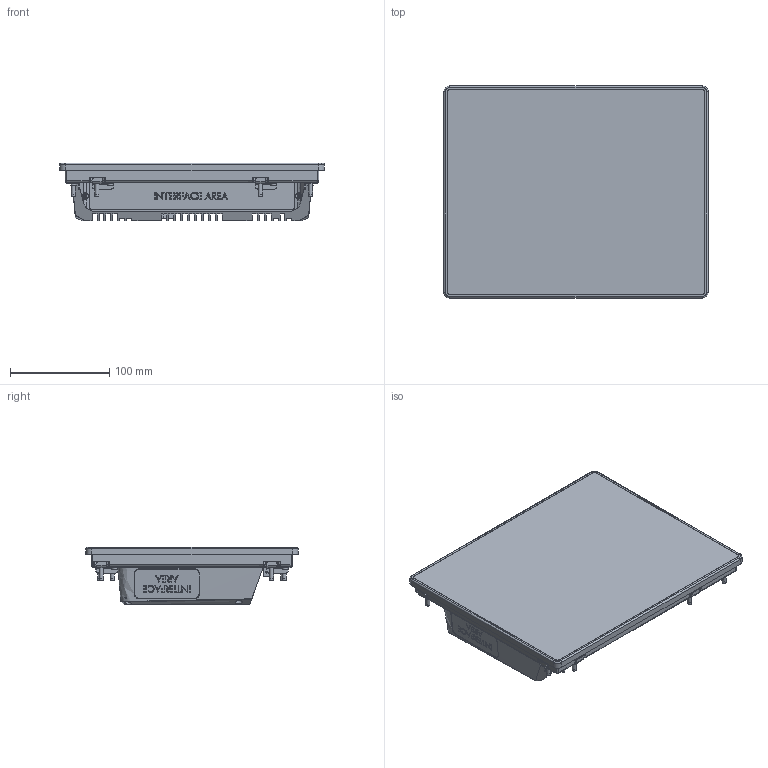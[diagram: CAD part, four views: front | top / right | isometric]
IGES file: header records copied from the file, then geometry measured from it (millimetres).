
Global section: file name: 153-13536_PV-AW10IoT10.4TX; native system: Autodesk Inventor 2022; preprocessor: unknown; author: Sandra.Stahl; date: 20220511.121418; units: millimetre
Bounding box: 266 x 213.2 x 58 mm (x, y, z)
Volume: 2082021.8 mm3; surface area: 328906.4 mm2
Topology: 2 solids, 18 shells, 2100 faces, 5668 edges, 3733 vertices
Faces by surface type: bspline 2100
